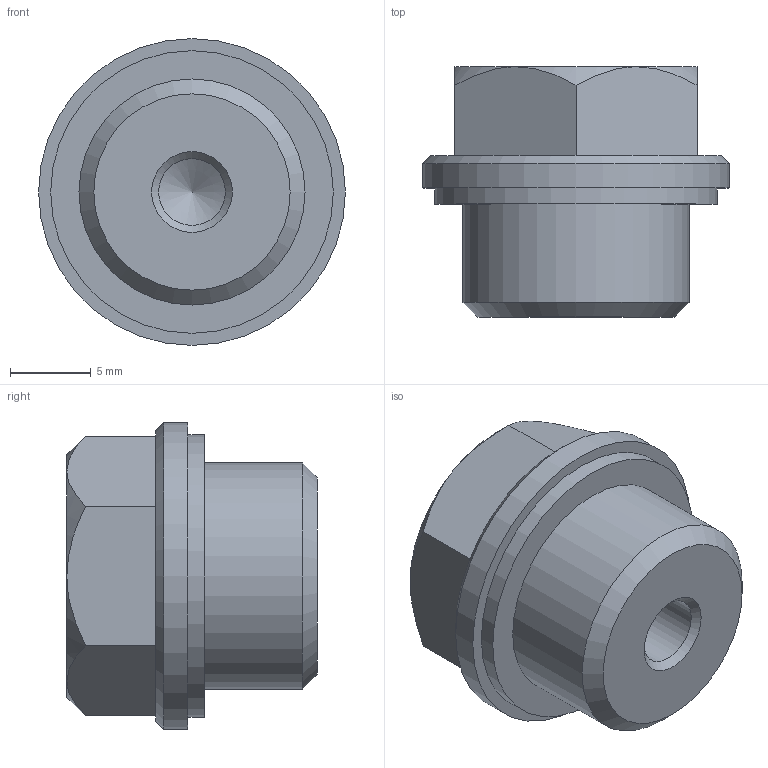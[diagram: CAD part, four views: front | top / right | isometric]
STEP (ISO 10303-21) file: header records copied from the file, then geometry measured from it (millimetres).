
FILE_DESCRIPTION( ( 'STEP AP203' ), '1' );
FILE_NAME( 'C:/Temp/Ganter_Step_05_03_2020/data/3_5/gn742/gn742_1/Threaded plug GN 742-19-M14x1,5-OS-1.stp', '2020-03-12T13:39:12', ( 'License CC BY-ND 4.0' ), ( 'CADENAS' ), ' ', 'PARTsolutions', ' ' );
FILE_SCHEMA( ( 'CONFIG_CONTROL_DESIGN' ) );
Length unit declared in the file: millimetre
Products named in the file (1): _Threaded plug GN 742-19-M14x1,5-OS-1
Bounding box: 19 x 15.5 x 19 mm (x, y, z)
Volume: 2757.7 mm3; surface area: 1434.2 mm2
Topology: 1 solids, 1 shells, 25 faces, 50 edges, 30 vertices
Faces by surface type: plane 11, cone 10, cylinder 4
Full cylindrical faces by diameter (mm): 4.134 x1, 14 x1, 17.5 x1, 19 x1
Entity records: 696 total; most frequent: CARTESIAN_POINT 177, DIRECTION 98, ORIENTED_EDGE 82, AXIS2_PLACEMENT_3D 43, EDGE_CURVE 41, EDGE_LOOP 36, VERTEX_POINT 30, FACE_OUTER_BOUND 29
